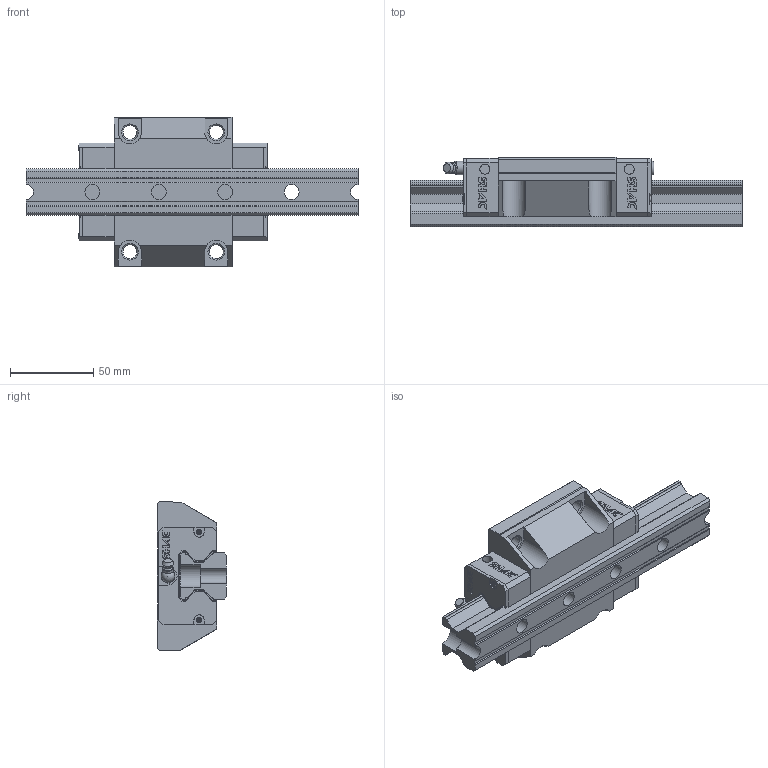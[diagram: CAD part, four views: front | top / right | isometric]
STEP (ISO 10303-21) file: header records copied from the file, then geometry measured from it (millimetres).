
FILE_DESCRIPTION( ( 'STEP AP214' ), '1' );
FILE_NAME( 'F:/品牌/SHAC 台湾鼎翰传动科技有限公司/3D滑块/GRW30CC1R200Z0CRC-0_0_1_1__.stp', '2025-04-21T22:52:14', ( 'License CC BY-ND 4.0' ), ( 'CADENAS' ), ' ', 'PARTsolutions', ' ' );
FILE_SCHEMA( ( 'AUTOMOTIVE_DESIGN { 1 0 10303 214 1 1 1 1 }' ) );
Length unit declared in the file: millimetre
Products named in the file (8): GRW30CC1R200Z0CRC-0/0(1_1_); _GR30R200-0/0(1)_RAIL; _GRW30CC_slider; _GRW30_C; _GRW30_P; _GR30_SCREW; _GH30_BOLT; _GH30-_G
Assembly tree (12 placements, depth 2):
  GRW30CC1R200Z0CRC-0/0(1_1_)
    _GR30R200-0/0(1)_RAIL
    _GRW30CC_slider
    _GRW30_C  x2
    _GRW30_P  x2
    _GR30_SCREW  x4
    _GH30_BOLT
    _GH30-_G
Bounding box: 200 x 42 x 90 mm (x, y, z)
Volume: 339298.8 mm3; surface area: 82277.5 mm2
Topology: 12 solids, 12 shells, 816 faces, 2215 edges, 1465 vertices
Faces by surface type: plane 659, cylinder 117, cone 28, torus 6, sphere 5, bspline 1
Full cylindrical faces by diameter (mm): 3.2 x4, 3.4 x4, 4.5 x1, 5 x2, 6 x6, 6.5 x2, 8 x1, 8.2 x1, 8.376 x6, 9 x4, 10.1 x2, 14 x4
Entity records: 19795 total; most frequent: CARTESIAN_POINT 2911, ORIENTED_EDGE 2618, DIRECTION 2522, EDGE_CURVE 1309, LINE 1072, VECTOR 1072, VERTEX_POINT 894, AXIS2_PLACEMENT_3D 725
